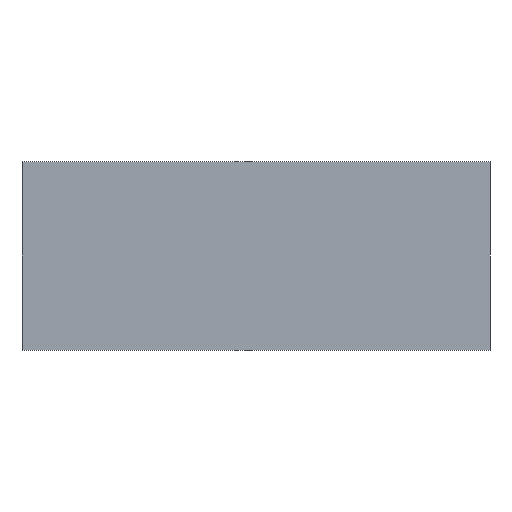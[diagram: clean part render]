
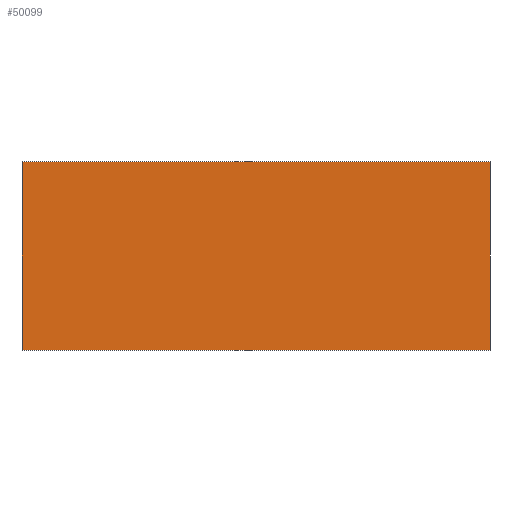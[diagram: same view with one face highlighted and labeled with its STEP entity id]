
A CAD part, front view. The second image highlights one B-rep face of the part: STEP entity #50099.
In plain terms, the highlighted planar face has unit normal (0, -1, 0).
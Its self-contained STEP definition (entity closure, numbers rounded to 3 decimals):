
#1924 = EDGE_CURVE ( 'NONE', #8257, #45579, #19127, .T. ) ;
#2306 = VECTOR ( 'NONE', #62686, 39.37 ) ;
#2876 = CARTESIAN_POINT ( 'NONE',  ( 22.668, -6.215, 9.19 ) ) ;
#3151 = LINE ( 'NONE', #66133, #51750 ) ;
#5647 = FACE_OUTER_BOUND ( 'NONE', #34117, .T. ) ;
#7000 = DIRECTION ( 'NONE',  ( -1., 0., 0. ) ) ;
#8257 = VERTEX_POINT ( 'NONE', #40892 ) ;
#11823 = EDGE_CURVE ( 'NONE', #45579, #58843, #3151, .T. ) ;
#13352 = VECTOR ( 'NONE', #7000, 39.37 ) ;
#19127 = LINE ( 'NONE', #68473, #2306 ) ;
#21841 = ORIENTED_EDGE ( 'NONE', *, *, #79574, .T. ) ;
#24485 = CARTESIAN_POINT ( 'NONE',  ( -22.668, -6.215, -9.05 ) ) ;
#25225 = ORIENTED_EDGE ( 'NONE', *, *, #11823, .T. ) ;
#28256 = DIRECTION ( 'NONE',  ( 0., 0., 1. ) ) ;
#28267 = LINE ( 'NONE', #38588, #13352 ) ;
#31685 = DIRECTION ( 'NONE',  ( 0., 0., 1. ) ) ;
#34117 = EDGE_LOOP ( 'NONE', ( #34923, #25225, #34439, #21841 ) ) ;
#34304 = DIRECTION ( 'NONE',  ( 1., 0., 0. ) ) ;
#34439 = ORIENTED_EDGE ( 'NONE', *, *, #40328, .T. ) ;
#34923 = ORIENTED_EDGE ( 'NONE', *, *, #1924, .T. ) ;
#38588 = CARTESIAN_POINT ( 'NONE',  ( -22.668, -6.215, 9.19 ) ) ;
#40328 = EDGE_CURVE ( 'NONE', #58843, #80990, #71505, .T. ) ;
#40892 = CARTESIAN_POINT ( 'NONE',  ( -22.668, -6.215, 9.19 ) ) ;
#44127 = CARTESIAN_POINT ( 'NONE',  ( -5.185, -6.215, 6.058 ) ) ;
#45579 = VERTEX_POINT ( 'NONE', #24485 ) ;
#50099 = ADVANCED_FACE ( 'NONE', ( #5647 ), #50533, .F. ) ;
#50533 = PLANE ( 'NONE',  #73114 ) ;
#51750 = VECTOR ( 'NONE', #34304, 39.37 ) ;
#52822 = VECTOR ( 'NONE', #28256, 39.37 ) ;
#56862 = CARTESIAN_POINT ( 'NONE',  ( 22.668, -6.215, -9.05 ) ) ;
#58843 = VERTEX_POINT ( 'NONE', #56862 ) ;
#62686 = DIRECTION ( 'NONE',  ( 0., 0., -1. ) ) ;
#66133 = CARTESIAN_POINT ( 'NONE',  ( -22.668, -6.215, -9.05 ) ) ;
#68473 = CARTESIAN_POINT ( 'NONE',  ( -22.668, -6.215, -9.05 ) ) ;
#69564 = DIRECTION ( 'NONE',  ( 0., 1., 0. ) ) ;
#71505 = LINE ( 'NONE', #78708, #52822 ) ;
#73114 = AXIS2_PLACEMENT_3D ( 'NONE', #44127, #69564, #31685 ) ;
#78708 = CARTESIAN_POINT ( 'NONE',  ( 22.668, -6.215, -9.05 ) ) ;
#79574 = EDGE_CURVE ( 'NONE', #80990, #8257, #28267, .T. ) ;
#80990 = VERTEX_POINT ( 'NONE', #2876 ) ;
